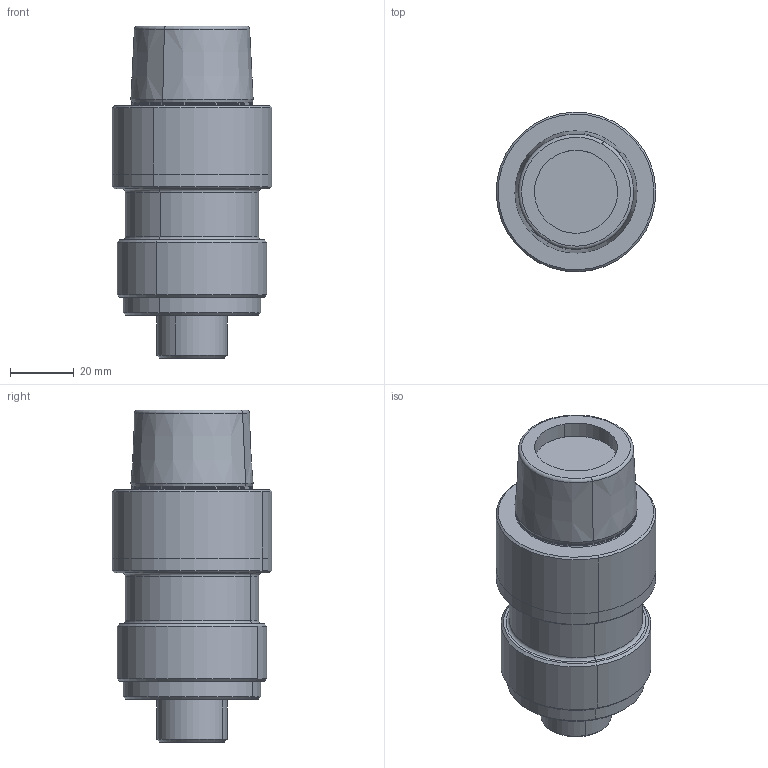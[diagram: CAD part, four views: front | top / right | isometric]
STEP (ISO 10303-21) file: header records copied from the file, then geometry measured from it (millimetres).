
FILE_DESCRIPTION(('CATIA V5 STEP Exchange'),'2;1');
FILE_NAME('I:\isr\design\admin8\users\giries_a\4504490.NEW.stp','2012-02-09T06:13:28+00:00',('none'),('none'),'CATIA Version 5 Release 19 SP 7 (IN-10)','CATIA V5 STEP AP214','none');
FILE_SCHEMA(('AUTOMOTIVE_DESIGN { 1 0 10303 214 1 1 1 1 }'));
Length unit declared in the file: millimetre
Products named in the file (1): 60910404_0 Assembly HSK E 50 SEM 22X 60 
Bounding box: 49.99 x 49.99 x 104 mm (x, y, z)
Volume: 141143.9 mm3; surface area: 18838.1 mm2
Topology: 1 solids, 1 shells, 65 faces, 128 edges, 74 vertices
Faces by surface type: cylinder 22, cone 20, torus 12, plane 11
Entity records: 1932 total; most frequent: ORIENTED_EDGE 256, CARTESIAN_POINT 241, DIRECTION 204, EDGE_CURVE 128, AXIS2_PLACEMENT_3D 125, CIRCLE 86, EDGE_LOOP 74, VERTEX_POINT 74
